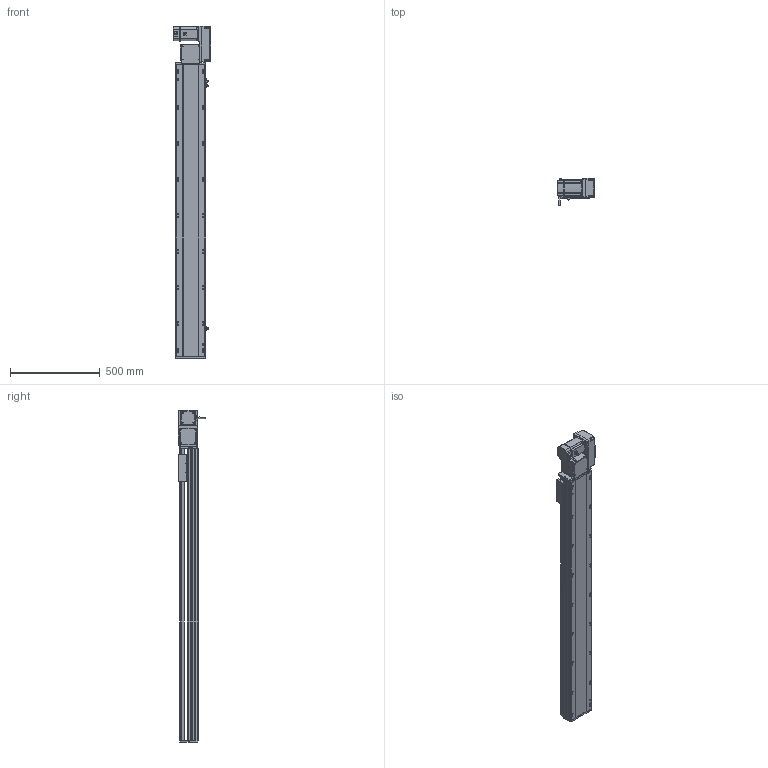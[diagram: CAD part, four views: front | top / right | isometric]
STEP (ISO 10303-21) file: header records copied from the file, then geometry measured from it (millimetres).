
FILE_DESCRIPTION (( 'STEP AP214' ), '1' );
FILE_NAME ('RTB17S-XX-1350-R-M75-C4.STEP', '2025-12-12T01:37:30', ( '' ), ( '' ), 'SwSTEP 2.0', 'SolidWorks 2018', '' );
FILE_SCHEMA (( 'AUTOMOTIVE_DESIGN' ));
Length unit declared in the file: millimetre
Products named in the file (15): RTB22S-GY-008-M75--萇儂啣^RTB17S-R-々湍釱蚾饜-750W_RTB17S-XX-XX-R-M75-C4; RTB17S-L-007奻裔^RTB17S-XX-XX-R-M75-C4; RTB22S-GY-005P^RTB17S-R-々湍釱蚾饜-750W_RTB17S-XX-XX-R-M75-C4; RTB22S-GY-018P^RTB17S-R-々湍釱蚾饜-750W_RTB17S-XX-XX-R-M75-C4; RTB17-R-011菁釱^RTB17S-XX-XX-R-M75-C4; RTB17S-R-々湍釱蚾饜-750W^RTB17S-XX-XX-R-M75-C4; EE672^RTB17S-XX-XX-R-M75-C4; RTB17S-L-014-T20-P75--々湍釱^RTB17S-R-々湍釱蚾饜-750W_RTB17S-XX-XX-R-M75-C4; RTB17S-XX-1350-R-M75-C4; RTH13-BL-012覜茼え俋离^RTB17S-賑釱_RTB17S-XX-XX-R-M75-C4; RTB22S-GY-017P^RTB17S-R-々湍釱蚾饜-750W_RTB17S-XX-XX-R-M75-C4; 750W萇儂^RTB17S-XX-XX-R-M75-C4; RTB17S-L-004-賑釱^RTB17S-賑釱_RTB17S-XX-XX-R-M75-C4; RTB17S-L-001-耜醱啣^RTB17S-XX-XX-R-M75-C4; RTB17S-賑釱^RTB17S-XX-XX-R-M75-C4
Assembly tree (17 placements, depth 3):
  RTB17S-XX-1350-R-M75-C4
    RTB17-R-011菁釱^RTB17S-XX-XX-R-M75-C4
    EE672^RTB17S-XX-XX-R-M75-C4  x3
    RTB17S-L-001-耜醱啣^RTB17S-XX-XX-R-M75-C4
    RTB17S-賑釱^RTB17S-XX-XX-R-M75-C4
      RTB17S-L-004-賑釱^RTB17S-賑釱_RTB17S-XX-XX-R-M75-C4
      RTH13-BL-012覜茼え俋离^RTB17S-賑釱_RTB17S-XX-XX-R-M75-C4
    RTB17S-L-007奻裔^RTB17S-XX-XX-R-M75-C4
    750W萇儂^RTB17S-XX-XX-R-M75-C4
    RTB17S-R-々湍釱蚾饜-750W^RTB17S-XX-XX-R-M75-C4
      RTB17S-L-014-T20-P75--々湍釱^RTB17S-R-々湍釱蚾饜-750W_RTB17S-XX-XX-R-M75-C4
      RTB22S-GY-005P^RTB17S-R-々湍釱蚾饜-750W_RTB17S-XX-XX-R-M75-C4
      RTB22S-GY-017P^RTB17S-R-々湍釱蚾饜-750W_RTB17S-XX-XX-R-M75-C4  x2
      RTB22S-GY-008-M75--萇儂啣^RTB17S-R-々湍釱蚾饜-750W_RTB17S-XX-XX-R-M75-C4
      RTB22S-GY-018P^RTB17S-R-々湍釱蚾饜-750W_RTB17S-XX-XX-R-M75-C4
Bounding box: 207.4 x 152.7 x 1849 mm (x, y, z)
Volume: 14389044.7 mm3; surface area: 2500834.3 mm2
Topology: 17 solids, 17 shells, 2121 faces, 5890 edges, 3806 vertices
Faces by surface type: plane 974, cylinder 731, bspline 294, cone 110, sphere 8, torus 4
Entity records: 59638 total; most frequent: CARTESIAN_POINT 17554, ORIENTED_EDGE 8624, DIRECTION 8042, EDGE_CURVE 4312, AXIS2_PLACEMENT_3D 2826, VERTEX_POINT 2810, VECTOR 2390, LINE 2390
